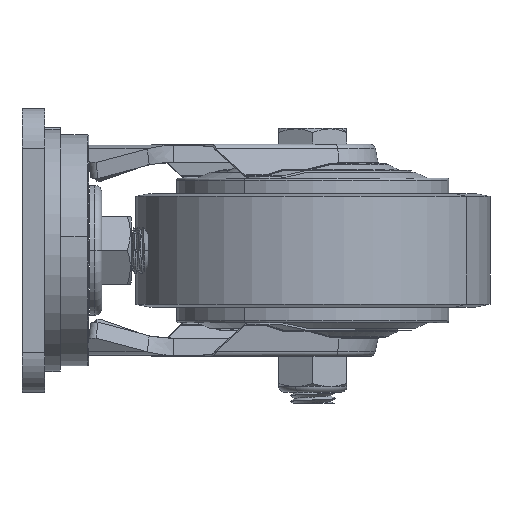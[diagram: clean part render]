
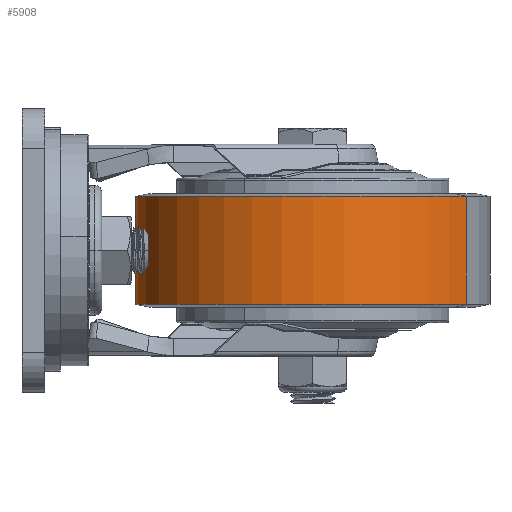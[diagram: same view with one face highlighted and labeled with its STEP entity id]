
A CAD part, left-side view. The second image highlights one B-rep face of the part: STEP entity #5908.
In plain terms, the highlighted cylindrical face has radius 62.5 mm (diameter 125 mm), a partial arc.
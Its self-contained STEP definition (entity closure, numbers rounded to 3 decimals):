
#5679=DIRECTION('',(0.,0.,1.));
#5680=VECTOR('',#5679,38.);
#5681=CARTESIAN_POINT('',(63.25,-48.373,-19.));
#5682=LINE('',#5681,#5680);
#5683=DIRECTION('',(0.,0.,1.));
#5684=VECTOR('',#5683,38.);
#5685=CARTESIAN_POINT('',(0.75,-156.627,-19.));
#5686=LINE('',#5685,#5684);
#5687=CARTESIAN_POINT('',(32.,-102.5,-19.));
#5688=DIRECTION('',(0.,0.,1.));
#5689=DIRECTION('',(0.5,0.866,0.));
#5690=AXIS2_PLACEMENT_3D('',#5687,#5688,#5689);
#5710=CARTESIAN_POINT('',(32.,-102.5,19.));
#5711=DIRECTION('',(0.,0.,1.));
#5712=DIRECTION('',(0.5,0.866,0.));
#5713=AXIS2_PLACEMENT_3D('',#5710,#5711,#5712);
#5758=CARTESIAN_POINT('',(63.25,-48.373,-19.));
#5760=VERTEX_POINT('',#5758);
#5761=CARTESIAN_POINT('',(63.25,-48.373,19.));
#5762=VERTEX_POINT('',#5761);
#5774=CARTESIAN_POINT('',(0.75,-156.627,-19.));
#5776=VERTEX_POINT('',#5774);
#5777=CARTESIAN_POINT('',(0.75,-156.627,19.));
#5778=VERTEX_POINT('',#5777);
#5894=CARTESIAN_POINT('',(32.,-102.5,23.1));
#5895=DIRECTION('',(0.,0.,-1.));
#5896=DIRECTION('',(-0.5,-0.866,0.));
#5897=AXIS2_PLACEMENT_3D('',#5894,#5895,#5896);
#5898=CYLINDRICAL_SURFACE('',#5897,62.5);
#5900=ORIENTED_EDGE('',*,*,#5899,.T.);
#5902=ORIENTED_EDGE('',*,*,#5901,.T.);
#5904=ORIENTED_EDGE('',*,*,#5903,.F.);
#5905=ORIENTED_EDGE('',*,*,#5880,.F.);
#5906=EDGE_LOOP('',(#5900,#5902,#5904,#5905));
#5907=FACE_OUTER_BOUND('',#5906,.F.);
#5908=ADVANCED_FACE('',(#5907),#5898,.T.);
#5691=CIRCLE('',#5690,62.5);
#5714=CIRCLE('',#5713,62.5);
#5880=EDGE_CURVE('',#5760,#5776,#5691,.T.);
#5899=EDGE_CURVE('',#5760,#5762,#5682,.T.);
#5901=EDGE_CURVE('',#5762,#5778,#5714,.T.);
#5903=EDGE_CURVE('',#5776,#5778,#5686,.T.);
